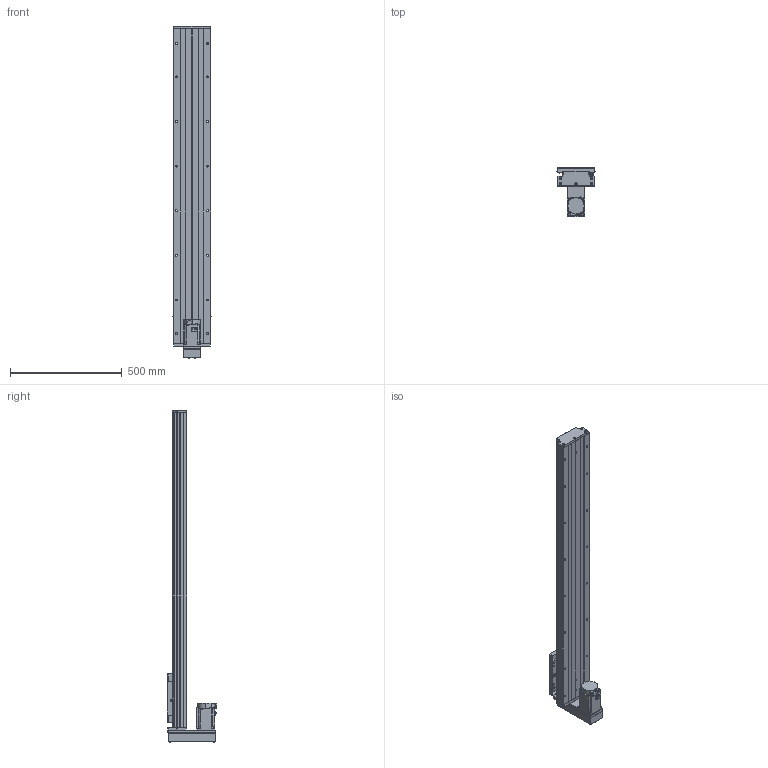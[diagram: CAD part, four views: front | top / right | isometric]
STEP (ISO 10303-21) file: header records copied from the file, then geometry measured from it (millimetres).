
FILE_DESCRIPTION (( 'STEP AP203' ), '1' );
FILE_NAME ('GTH17-1150-BM-M75-C4.step', '2023-06-30T12:38:11', ( '微软用户' ), ( '微软中国' ), 'SwSTEP 2.0', 'SolidWorks 2020', '' );
FILE_SCHEMA (( 'CONFIG_CONTROL_DESIGN' ));
Length unit declared in the file: millimetre
Products named in the file (19): CTHA60-017; GBT 70.2-M3¡Á5_M3¡Á6; EE_SX911P_R; す晦芛蹟隊 M3℅5; GTH17-001_1150; CTHA60-016; HG-KN73J-S100; GTH17-002_GTH17-002; GBT 70.1-M3℅5; GBT 70.2-M4¡Á45_M4¡Á35; GTH17-004; GBT77-2000 M3×3; GTH17-015-2_CTHA86-015-2; GTH17-005; GBT 70.1-M6¡Á20_M6¡Á20; GTH17-033; GB1155-6X6; GTH17-031; GTH17-1150-BM-M75-C4
Assembly tree (58 placements, depth 2):
  GTH17-1150-BM-M75-C4
    GTH17-001_1150
    GTH17-002_GTH17-002
    GTH17-004
    GTH17-005
    GB1155-6X6  x2
    CTHA60-017  x3
    EE_SX911P_R  x3
    CTHA60-016  x2
    GBT 70.1-M3℅5  x6
    GBT77-2000 M3×3  x6
    GBT 70.1-M6¡Á20_M6¡Á20  x10
    GTH17-031
    GBT 70.2-M3¡Á5_M3¡Á6  x8
    す晦芛蹟隊 M3℅5  x6
    HG-KN73J-S100
    GBT 70.2-M4¡Á45_M4¡Á35  x4
    GTH17-015-2_CTHA86-015-2
    GTH17-033
Bounding box: 171 x 222.3 x 1488.2 mm (x, y, z)
Volume: 12029294.1 mm3; surface area: 1584257.3 mm2
Topology: 61 solids, 61 shells, 2469 faces, 5893 edges, 3651 vertices
Faces by surface type: plane 1314, cylinder 682, cone 297, torus 124, sphere 32, bspline 20
Entity records: 45354 total; most frequent: CARTESIAN_POINT 10466, DIRECTION 6601, ORIENTED_EDGE 6498, EDGE_CURVE 3249, AXIS2_PLACEMENT_3D 2264, VECTOR 2073, LINE 2073, VERTEX_POINT 2063
